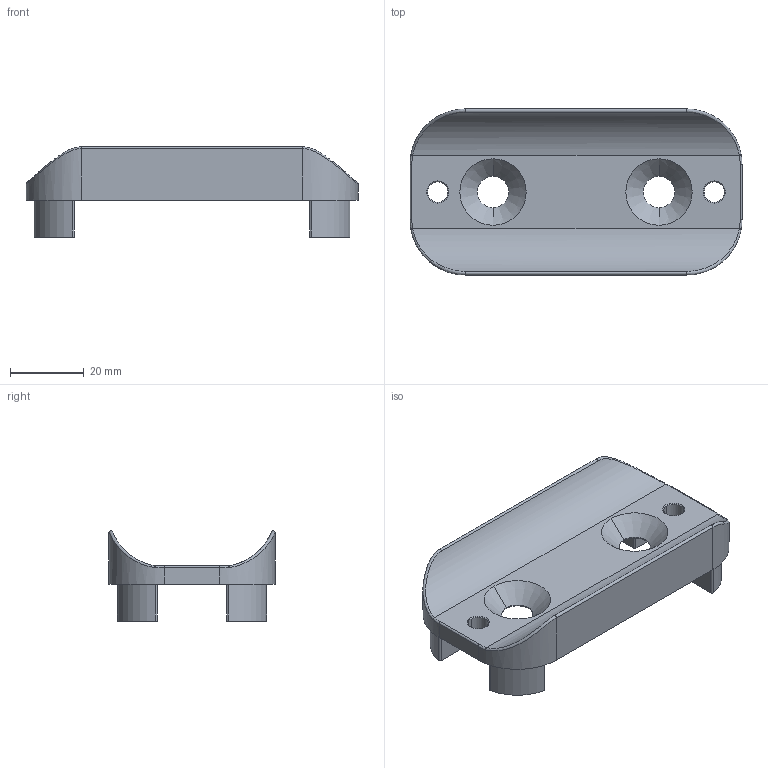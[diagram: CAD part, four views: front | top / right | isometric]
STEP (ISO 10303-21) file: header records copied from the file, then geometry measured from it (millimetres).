
FILE_DESCRIPTION (( 'STEP AP203' ), '1' );
FILE_NAME ('800.029.146.STEP', '2014-11-13T11:01:17', ( '' ), ( '' ), 'SwSTEP 2.0', 'SolidWorks 2012', '' );
FILE_SCHEMA (( 'CONFIG_CONTROL_DESIGN' ));
Length unit declared in the file: millimetre
Products named in the file (1): 800.029.146
Bounding box: 90 x 45 x 24.48 mm (x, y, z)
Volume: 27698.2 mm3; surface area: 12535.3 mm2
Topology: 1 solids, 1 shells, 74 faces, 184 edges, 116 vertices
Faces by surface type: cylinder 36, plane 18, cone 12, torus 4, bspline 4
Entity records: 2909 total; most frequent: CARTESIAN_POINT 1027, DIRECTION 394, ORIENTED_EDGE 368, EDGE_CURVE 184, AXIS2_PLACEMENT_3D 155, VERTEX_POINT 116, EDGE_LOOP 86, VECTOR 84
